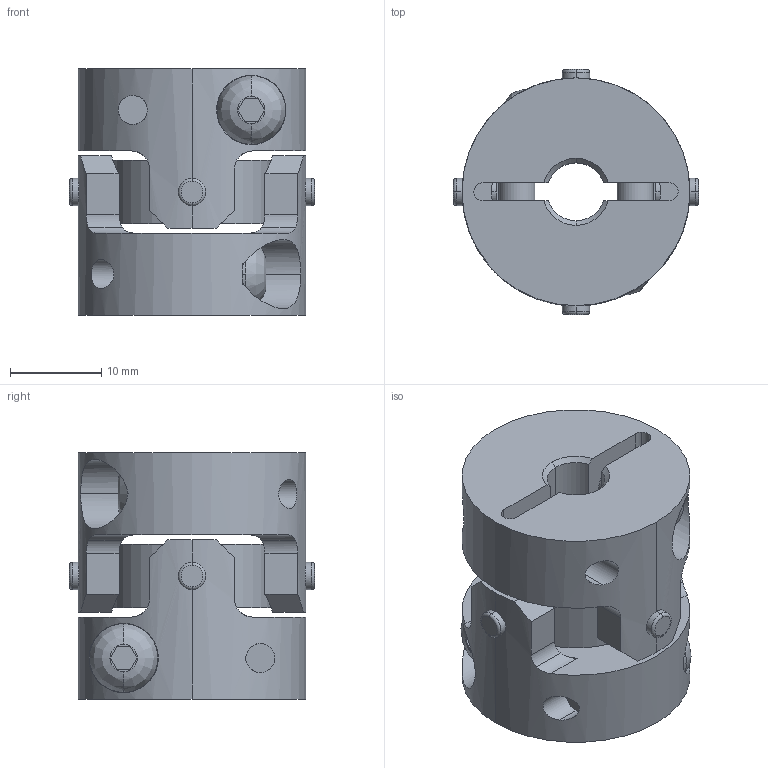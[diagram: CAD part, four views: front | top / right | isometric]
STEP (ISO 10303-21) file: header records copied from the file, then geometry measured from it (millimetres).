
FILE_DESCRIPTION((''),'2;1');
FILE_NAME('UA-25C-6.35×10.stp','2013-05-16T09:30:45',(''),(''),'AutoCAD STEP 2000i','AutoCAD 2000i',', , ');
FILE_SCHEMA(('CONFIG_CONTROL_DESIGN'));
Length unit declared in the file: millimetre
Products named in the file (7): UA-25C-5×9; 忣兜1; UA-2502-D09; BTN-M4; UA-2502-D05-1; UA-2502-D05; UA25-SEN
Assembly tree (8 placements, depth 3):
  UA-25C-5×9
    忣兜1
    UA-2502-D09
      BTN-M4
    UA-2502-D05-1
      BTN-M4
    UA-2502-D05
      BTN-M4
    UA25-SEN
Bounding box: 26.89 x 26.89 x 27 mm (x, y, z)
Volume: 9039.9 mm3; surface area: 6377.5 mm2
Topology: 1 solids, 1 shells, 208 faces, 562 edges, 368 vertices
Faces by surface type: cylinder 96, plane 80, cone 16, bspline 8, torus 8
Entity records: 8385 total; most frequent: CARTESIAN_POINT 2983, ORIENTED_EDGE 1124, DIRECTION 1084, EDGE_CURVE 562, AXIS2_PLACEMENT_3D 417, VERTEX_POINT 368, VECTOR 250, LINE 250
